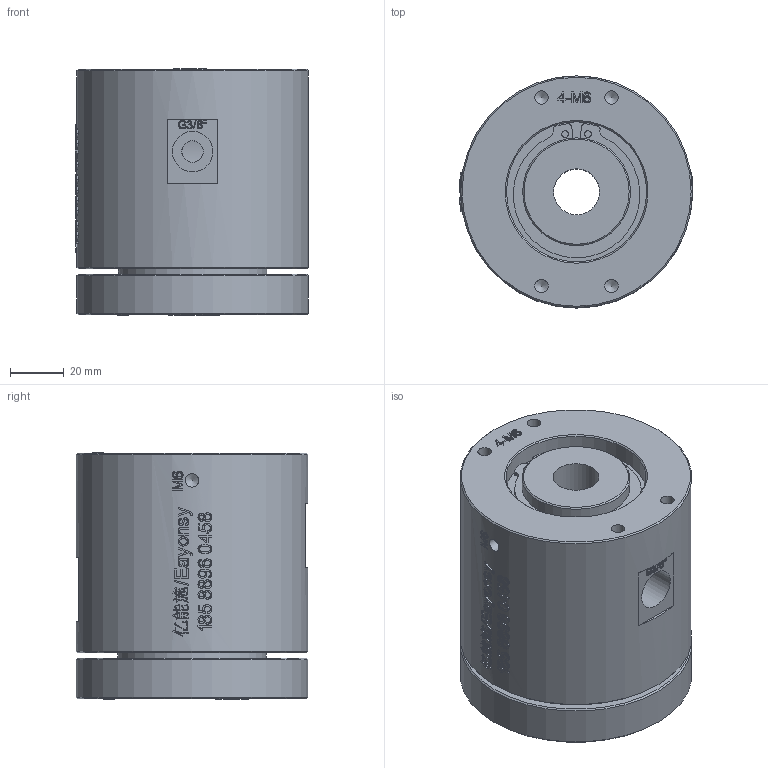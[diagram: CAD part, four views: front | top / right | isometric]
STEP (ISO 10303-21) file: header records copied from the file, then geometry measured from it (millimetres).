
FILE_DESCRIPTION(/* description */ (''),/* implementation_level */ '2;1');
FILE_NAME(/* name */ 'YQD0203-3D模型.stp',/* time_stamp */ '2025-08-02T17:34:52+08:00',/* author */ (''),/* organization */ (''),/* preprocessor_version */ 'ST-DEVELOPER v16.7',/* originating_system */ 'SIEMENS PLM Software NX 12.0',/* authorisation */ '');
FILE_SCHEMA (('AUTOMOTIVE_DESIGN { 1 0 10303 214 3 1 1 1 }'));
Length unit declared in the file: millimetre
Products named in the file (1): Admi0A2CCD10cfb5
Bounding box: 86.58 x 86 x 91.4 mm (x, y, z)
Volume: 482061 mm3; surface area: 54585.9 mm2
Topology: 1 solids, 1 shells, 1368 faces, 3783 edges, 2521 vertices
Faces by surface type: extrusion 833, plane 410, cylinder 59, bspline 49, cone 17
Full cylindrical faces by diameter (mm): 2.5 x2, 5 x10, 8 x4, 15 x4, 17 x1, 37.5 x1, 40 x1, 52 x1, 55 x1, 65 x1, 86 x2
Entity records: 53505 total; most frequent: CARTESIAN_POINT 24781, ORIENTED_EDGE 7408, B_SPLINE_CURVE_WITH_KNOTS 3845, EDGE_CURVE 3704, DIRECTION 2733, VERTEX_POINT 2498, EDGE_LOOP 1520, ADVANCED_FACE 1368
